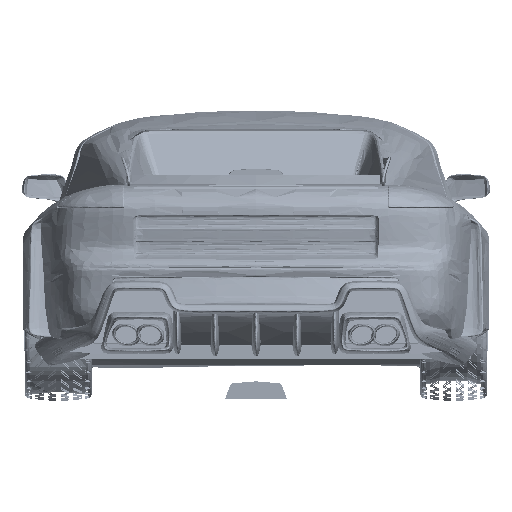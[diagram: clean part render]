
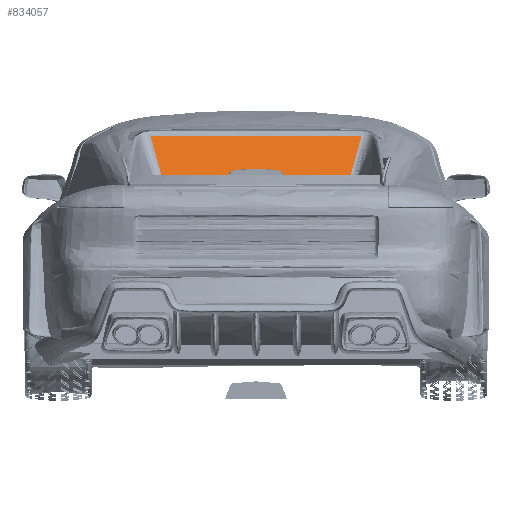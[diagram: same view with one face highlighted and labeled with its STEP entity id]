
A CAD part, left-side view. The second image highlights one B-rep face of the part: STEP entity #834057.
In plain terms, the highlighted free-form (B-spline) face has degree [3, 3] with [7, 7] control points.
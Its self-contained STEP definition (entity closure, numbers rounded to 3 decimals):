
#833952=CARTESIAN_POINT('Control Point',(-2469.267,443.079,1015.811)) ;
#833953=CARTESIAN_POINT('Control Point',(-2459.866,448.157,1033.363)) ;
#833954=CARTESIAN_POINT('Control Point',(-2441.062,458.313,1068.465)) ;
#833955=CARTESIAN_POINT('Control Point',(-2412.857,473.548,1121.119)) ;
#833956=CARTESIAN_POINT('Control Point',(-2384.652,488.782,1173.773)) ;
#833957=CARTESIAN_POINT('Control Point',(-2365.849,498.938,1208.876)) ;
#833958=CARTESIAN_POINT('Control Point',(-2356.447,504.016,1226.427)) ;
#833959=CARTESIAN_POINT('Control Point',(-2469.267,369.232,1015.811)) ;
#833960=CARTESIAN_POINT('Control Point',(-2459.866,373.464,1033.363)) ;
#833961=CARTESIAN_POINT('Control Point',(-2441.062,381.928,1068.465)) ;
#833962=CARTESIAN_POINT('Control Point',(-2412.857,394.623,1121.119)) ;
#833963=CARTESIAN_POINT('Control Point',(-2384.652,407.318,1173.773)) ;
#833964=CARTESIAN_POINT('Control Point',(-2365.849,415.782,1208.876)) ;
#833965=CARTESIAN_POINT('Control Point',(-2356.447,420.013,1226.427)) ;
#833966=CARTESIAN_POINT('Control Point',(-2469.267,221.539,1015.811)) ;
#833967=CARTESIAN_POINT('Control Point',(-2459.866,224.079,1033.363)) ;
#833968=CARTESIAN_POINT('Control Point',(-2441.062,229.157,1068.465)) ;
#833969=CARTESIAN_POINT('Control Point',(-2412.857,236.774,1121.119)) ;
#833970=CARTESIAN_POINT('Control Point',(-2384.652,244.391,1173.773)) ;
#833971=CARTESIAN_POINT('Control Point',(-2365.849,249.469,1208.876)) ;
#833972=CARTESIAN_POINT('Control Point',(-2356.447,252.008,1226.427)) ;
#833973=CARTESIAN_POINT('Control Point',(-2469.267,0.,1015.811)) ;
#833974=CARTESIAN_POINT('Control Point',(-2459.866,0.,1033.363)) ;
#833975=CARTESIAN_POINT('Control Point',(-2441.062,0.,1068.465)) ;
#833976=CARTESIAN_POINT('Control Point',(-2412.857,0.,1121.119)) ;
#833977=CARTESIAN_POINT('Control Point',(-2384.652,0.,1173.773)) ;
#833978=CARTESIAN_POINT('Control Point',(-2365.849,0.,1208.876)) ;
#833979=CARTESIAN_POINT('Control Point',(-2356.447,0.,1226.427)) ;
#833980=CARTESIAN_POINT('Control Point',(-2469.267,-221.539,1015.811)) ;
#833981=CARTESIAN_POINT('Control Point',(-2459.866,-224.079,1033.363)) ;
#833982=CARTESIAN_POINT('Control Point',(-2441.062,-229.157,1068.465)) ;
#833983=CARTESIAN_POINT('Control Point',(-2412.857,-236.774,1121.119)) ;
#833984=CARTESIAN_POINT('Control Point',(-2384.652,-244.391,1173.773)) ;
#833985=CARTESIAN_POINT('Control Point',(-2365.849,-249.469,1208.876)) ;
#833986=CARTESIAN_POINT('Control Point',(-2356.447,-252.008,1226.427)) ;
#833987=CARTESIAN_POINT('Control Point',(-2469.267,-369.232,1015.811)) ;
#833988=CARTESIAN_POINT('Control Point',(-2459.866,-373.464,1033.363)) ;
#833989=CARTESIAN_POINT('Control Point',(-2441.062,-381.928,1068.465)) ;
#833990=CARTESIAN_POINT('Control Point',(-2412.857,-394.623,1121.119)) ;
#833991=CARTESIAN_POINT('Control Point',(-2384.652,-407.318,1173.773)) ;
#833992=CARTESIAN_POINT('Control Point',(-2365.849,-415.782,1208.876)) ;
#833993=CARTESIAN_POINT('Control Point',(-2356.447,-420.013,1226.427)) ;
#833994=CARTESIAN_POINT('Control Point',(-2469.267,-443.079,1015.811)) ;
#833995=CARTESIAN_POINT('Control Point',(-2459.866,-448.157,1033.363)) ;
#833996=CARTESIAN_POINT('Control Point',(-2441.062,-458.313,1068.465)) ;
#833997=CARTESIAN_POINT('Control Point',(-2412.857,-473.548,1121.119)) ;
#833998=CARTESIAN_POINT('Control Point',(-2384.652,-488.782,1173.773)) ;
#833999=CARTESIAN_POINT('Control Point',(-2365.849,-498.938,1208.876)) ;
#834000=CARTESIAN_POINT('Control Point',(-2356.447,-504.016,1226.427)) ;
#834002=CARTESIAN_POINT('Control Point',(-2463.616,0.,1026.362)) ;
#834003=CARTESIAN_POINT('Control Point',(-2463.616,-74.355,1026.362)) ;
#834004=CARTESIAN_POINT('Control Point',(-2463.616,-219.591,1026.362)) ;
#834005=CARTESIAN_POINT('Control Point',(-2463.616,-364.827,1026.362)) ;
#834006=CARTESIAN_POINT('Control Point',(-2463.616,-435.708,1026.362)) ;
#834007=CARTESIAN_POINT('Vertex',(-2463.616,0.,1026.362)) ;
#834009=CARTESIAN_POINT('Vertex',(-2463.616,-435.708,1026.362)) ;
#834013=CARTESIAN_POINT('Control Point',(-2463.616,-435.708,1026.362)) ;
#834014=CARTESIAN_POINT('Control Point',(-2361.769,-489.16,1216.492)) ;
#834015=CARTESIAN_POINT('Vertex',(-2361.769,-489.16,1216.492)) ;
#834019=CARTESIAN_POINT('Control Point',(-2361.769,0.,1216.492)) ;
#834020=CARTESIAN_POINT('Control Point',(-2361.769,-83.524,1216.492)) ;
#834021=CARTESIAN_POINT('Control Point',(-2361.769,-246.577,1216.492)) ;
#834022=CARTESIAN_POINT('Control Point',(-2361.769,-409.63,1216.492)) ;
#834023=CARTESIAN_POINT('Control Point',(-2361.769,-489.16,1216.492)) ;
#834024=CARTESIAN_POINT('Vertex',(-2361.769,0.,1216.492)) ;
#834028=CARTESIAN_POINT('Control Point',(-2361.769,489.16,1216.492)) ;
#834029=CARTESIAN_POINT('Control Point',(-2361.769,409.63,1216.492)) ;
#834030=CARTESIAN_POINT('Control Point',(-2361.769,246.577,1216.492)) ;
#834031=CARTESIAN_POINT('Control Point',(-2361.769,83.524,1216.492)) ;
#834032=CARTESIAN_POINT('Control Point',(-2361.769,0.,1216.492)) ;
#834033=CARTESIAN_POINT('Vertex',(-2361.769,489.16,1216.492)) ;
#834037=CARTESIAN_POINT('Control Point',(-2361.769,489.16,1216.492)) ;
#834038=CARTESIAN_POINT('Control Point',(-2463.616,435.708,1026.362)) ;
#834039=CARTESIAN_POINT('Vertex',(-2463.616,435.708,1026.362)) ;
#834043=CARTESIAN_POINT('Control Point',(-2463.616,435.708,1026.362)) ;
#834044=CARTESIAN_POINT('Control Point',(-2463.616,364.827,1026.362)) ;
#834045=CARTESIAN_POINT('Control Point',(-2463.616,219.591,1026.362)) ;
#834046=CARTESIAN_POINT('Control Point',(-2463.616,74.355,1026.362)) ;
#834047=CARTESIAN_POINT('Control Point',(-2463.616,0.,1026.362)) ;
#834050=ORIENTED_EDGE('',*,*,#834011,.T.) ;
#834051=ORIENTED_EDGE('',*,*,#834017,.T.) ;
#834052=ORIENTED_EDGE('',*,*,#834026,.T.) ;
#834053=ORIENTED_EDGE('',*,*,#834035,.F.) ;
#834054=ORIENTED_EDGE('',*,*,#834041,.T.) ;
#834055=ORIENTED_EDGE('',*,*,#834048,.F.) ;
#834057=ADVANCED_FACE('\X2\0420043004410441043504470435043D04380435\X0\.1',(#834056),#833951,.T.) ;
#834001=B_SPLINE_CURVE_WITH_KNOTS('',3,(#834002,#834003,#834004,#834005,#834006),.UNSPECIFIED.,.F.,.U.,(4,1,4),(2.,3.,3.953),.UNSPECIFIED.) ;
#834012=B_SPLINE_CURVE_WITH_KNOTS('',1,(#834013,#834014),.UNSPECIFIED.,.F.,.U.,(2,2),(0.,222.244),.UNSPECIFIED.) ;
#834018=B_SPLINE_CURVE_WITH_KNOTS('',3,(#834019,#834020,#834021,#834022,#834023),.UNSPECIFIED.,.F.,.U.,(4,1,4),(2.,3.,3.952),.UNSPECIFIED.) ;
#834027=B_SPLINE_CURVE_WITH_KNOTS('',3,(#834028,#834029,#834030,#834031,#834032),.UNSPECIFIED.,.F.,.U.,(4,1,4),(0.048,1.,2.),.UNSPECIFIED.) ;
#834036=B_SPLINE_CURVE_WITH_KNOTS('',1,(#834037,#834038),.UNSPECIFIED.,.F.,.U.,(2,2),(0.,222.244),.UNSPECIFIED.) ;
#834042=B_SPLINE_CURVE_WITH_KNOTS('',3,(#834043,#834044,#834045,#834046,#834047),.UNSPECIFIED.,.F.,.U.,(4,1,4),(0.047,1.,2.),.UNSPECIFIED.) ;
#833951=B_SPLINE_SURFACE_WITH_KNOTS('',3,3,((#833952,#833953,#833954,#833955,#833956,#833957,#833958),(#833959,#833960,#833961,#833962,#833963,#833964,#833965),(#833966,#833967,#833968,#833969,#833970,#833971,#833972),(#833973,#833974,#833975,#833976,#833977,#833978,#833979),(#833980,#833981,#833982,#833983,#833984,#833985,#833986),(#833987,#833988,#833989,#833990,#833991,#833992,#833993),(#833994,#833995,#833996,#833997,#833998,#833999,#834000)),.UNSPECIFIED.,.F.,.F.,.U.,(4,1,1,1,4),(4,1,1,1,4),(0.,1.,2.,3.,4.),(0.,1.,2.,3.,4.),.UNSPECIFIED.) ;
#834011=EDGE_CURVE('',#834008,#834010,#834001,.T.) ;
#834017=EDGE_CURVE('',#834010,#834016,#834012,.T.) ;
#834026=EDGE_CURVE('',#834016,#834025,#834018,.F.) ;
#834035=EDGE_CURVE('',#834034,#834025,#834027,.T.) ;
#834041=EDGE_CURVE('',#834034,#834040,#834036,.T.) ;
#834048=EDGE_CURVE('',#834008,#834040,#834042,.F.) ;
#834049=EDGE_LOOP('',(#834050,#834051,#834052,#834053,#834054,#834055)) ;
#834056=FACE_OUTER_BOUND('',#834049,.T.) ;
#834008=VERTEX_POINT('',#834007) ;
#834010=VERTEX_POINT('',#834009) ;
#834016=VERTEX_POINT('',#834015) ;
#834025=VERTEX_POINT('',#834024) ;
#834034=VERTEX_POINT('',#834033) ;
#834040=VERTEX_POINT('',#834039) ;
